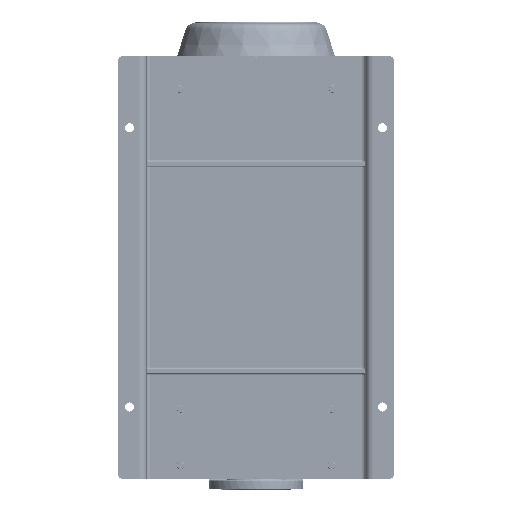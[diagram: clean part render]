
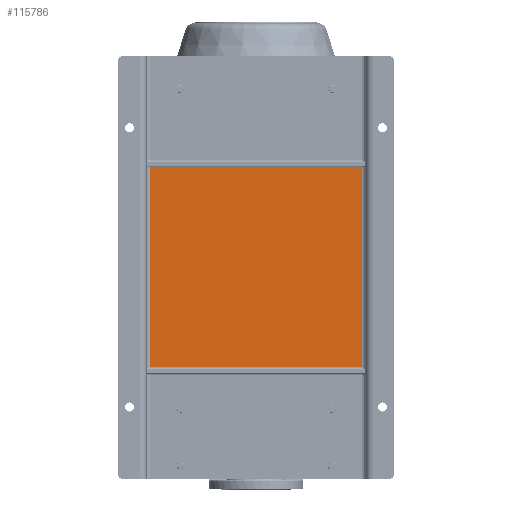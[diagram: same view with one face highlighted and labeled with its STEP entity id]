
A CAD part, front view. The second image highlights one B-rep face of the part: STEP entity #115786.
In plain terms, the highlighted planar face has unit normal (0, -1, 0).
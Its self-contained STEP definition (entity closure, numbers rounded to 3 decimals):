
#3996 = VERTEX_POINT ( 'NONE', #140371 ) ;
#14792 = ORIENTED_EDGE ( 'NONE', *, *, #105510, .T. ) ;
#17064 = VECTOR ( 'NONE', #144732, 1000. ) ;
#23742 = ORIENTED_EDGE ( 'NONE', *, *, #82386, .T. ) ;
#24812 = LINE ( 'NONE', #67598, #41827 ) ;
#28783 = VERTEX_POINT ( 'NONE', #120028 ) ;
#35138 = LINE ( 'NONE', #36863, #100044 ) ;
#35557 = LINE ( 'NONE', #157854, #17064 ) ;
#36863 = CARTESIAN_POINT ( 'NONE',  ( 645., 90., -290. ) ) ;
#40909 = CARTESIAN_POINT ( 'NONE',  ( 75., 90., -1120. ) ) ;
#41827 = VECTOR ( 'NONE', #107826, 1000. ) ;
#46813 = EDGE_CURVE ( 'NONE', #126634, #60792, #35557, .T. ) ;
#51439 = PLANE ( 'NONE',  #74414 ) ;
#59668 = ORIENTED_EDGE ( 'NONE', *, *, #61205, .T. ) ;
#60792 = VERTEX_POINT ( 'NONE', #66019 ) ;
#61205 = EDGE_CURVE ( 'NONE', #28783, #3996, #66265, .T. ) ;
#63656 = DIRECTION ( 'NONE',  ( 0., -1., 0. ) ) ;
#64038 = CARTESIAN_POINT ( 'NONE',  ( 85., 90., -825. ) ) ;
#66019 = CARTESIAN_POINT ( 'NONE',  ( 645., 90., -825. ) ) ;
#66075 = VECTOR ( 'NONE', #81108, 1000. ) ;
#66262 = FACE_OUTER_BOUND ( 'NONE', #143280, .T. ) ;
#66265 = LINE ( 'NONE', #133519, #66075 ) ;
#67598 = CARTESIAN_POINT ( 'NONE',  ( 85., 90., -830. ) ) ;
#74414 = AXIS2_PLACEMENT_3D ( 'NONE', #40909, #63656, #120441 ) ;
#81108 = DIRECTION ( 'NONE',  ( -1., 0., 0. ) ) ;
#82386 = EDGE_CURVE ( 'NONE', #60792, #28783, #35138, .T. ) ;
#100044 = VECTOR ( 'NONE', #153974, 1000. ) ;
#105510 = EDGE_CURVE ( 'NONE', #3996, #126634, #24812, .T. ) ;
#107826 = DIRECTION ( 'NONE',  ( 0., 0., -1. ) ) ;
#115786 = ADVANCED_FACE ( 'NONE', ( #66262 ), #51439, .T. ) ;
#120028 = CARTESIAN_POINT ( 'NONE',  ( 645., 90., -295. ) ) ;
#120441 = DIRECTION ( 'NONE',  ( 0., 0., -1. ) ) ;
#124645 = ORIENTED_EDGE ( 'NONE', *, *, #46813, .T. ) ;
#126634 = VERTEX_POINT ( 'NONE', #64038 ) ;
#133519 = CARTESIAN_POINT ( 'NONE',  ( 75., 90., -295. ) ) ;
#140371 = CARTESIAN_POINT ( 'NONE',  ( 85., 90., -295. ) ) ;
#143280 = EDGE_LOOP ( 'NONE', ( #14792, #124645, #23742, #59668 ) ) ;
#144732 = DIRECTION ( 'NONE',  ( 1., 0., 0. ) ) ;
#153974 = DIRECTION ( 'NONE',  ( 0., 0., 1. ) ) ;
#157854 = CARTESIAN_POINT ( 'NONE',  ( 75., 90., -825. ) ) ;
